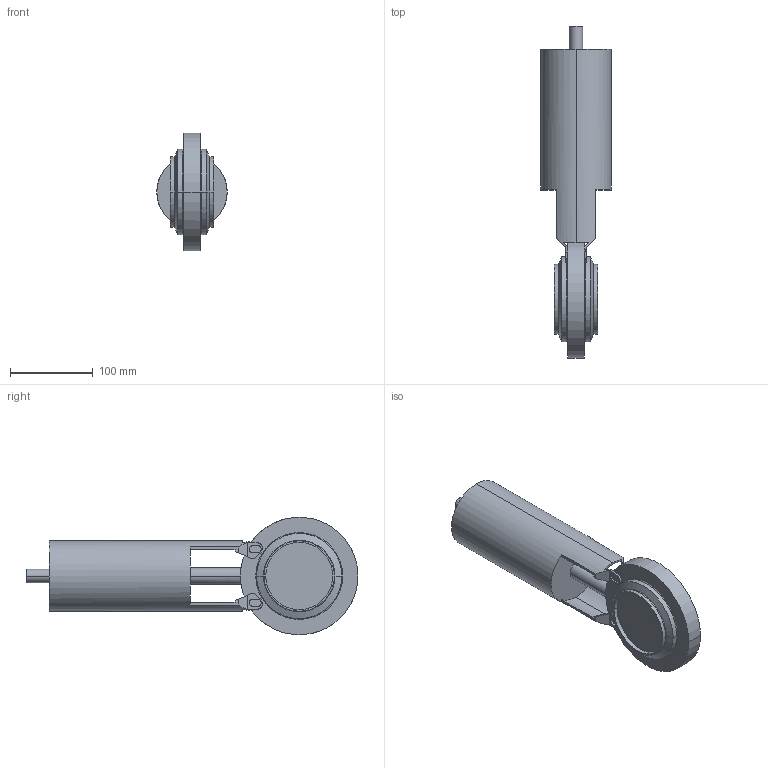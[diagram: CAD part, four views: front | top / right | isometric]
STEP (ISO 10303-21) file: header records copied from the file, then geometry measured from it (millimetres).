
FILE_DESCRIPTION(('OneSpaceDesigner STEP Export'),'2;1');
FILE_NAME('SV1-80-FZ-12S-vereint.stp','2007-04-19T14:35:23',(''),(''),'OneSpace Designer STEP processor for AP214 (Solid Model)','OneSpace Modeling 15.00 06-Feb-2007 (C) CoCreate Software GmbH','');
FILE_SCHEMA(('AUTOMOTIVE_DESIGN { 1 0 10303 214 1 1 1 1 }'));
Length unit declared in the file: millimetre
Products named in the file (3): Luftanschluß; SV1-80-FZ-12S; SV1-80-FZ-12S-vereint
Assembly tree (2 placements, depth 2):
  SV1-80-FZ-12S-vereint
    SV1-80-FZ-12S
    Luftanschluß
Bounding box: 85 x 401.06 x 141.81 mm (x, y, z)
Volume: 1506651.9 mm3; surface area: 128857.8 mm2
Topology: 2 solids, 2 shells, 126 faces, 333 edges, 212 vertices
Faces by surface type: plane 74, cylinder 40, torus 8, cone 4
Entity records: 4112 total; most frequent: CARTESIAN_POINT 1134, ORIENTED_EDGE 666, DIRECTION 553, EDGE_CURVE 333, VERTEX_POINT 212, VECTOR 189, LINE 189, AXIS2_PLACEMENT_3D 182
